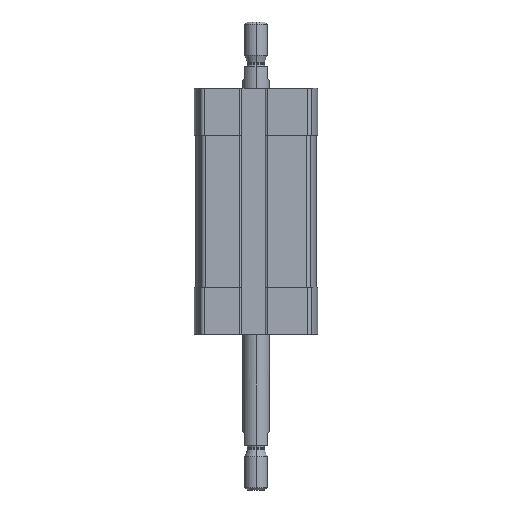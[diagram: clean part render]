
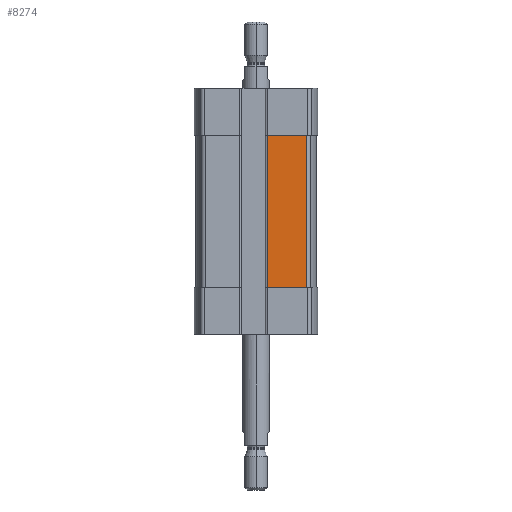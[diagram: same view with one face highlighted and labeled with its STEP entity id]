
A CAD part, left-side view. The second image highlights one B-rep face of the part: STEP entity #8274.
In plain terms, the highlighted planar face has unit normal (-1, 0, 0).
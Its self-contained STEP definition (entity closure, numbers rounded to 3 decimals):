
#23 = VECTOR ( 'NONE', #276, 1000. ) ;
#47 = VECTOR ( 'NONE', #2132, 1000. ) ;
#276 = DIRECTION ( 'NONE',  ( 0., 0., 1. ) ) ;
#488 = FACE_OUTER_BOUND ( 'NONE', #7339, .T. ) ;
#576 = LINE ( 'NONE', #7924, #4904 ) ;
#793 = CARTESIAN_POINT ( 'NONE',  ( -13.5, -11.329, -10.5 ) ) ;
#1013 = VECTOR ( 'NONE', #8107, 1000. ) ;
#1443 = PLANE ( 'NONE',  #10011 ) ;
#1508 = DIRECTION ( 'NONE',  ( -1., 0., 0. ) ) ;
#2132 = DIRECTION ( 'NONE',  ( 0., -1., 0. ) ) ;
#2255 = CARTESIAN_POINT ( 'NONE',  ( -13.5, -11.329, -44.5 ) ) ;
#2288 = CARTESIAN_POINT ( 'NONE',  ( -13.5, -2.5, -44.5 ) ) ;
#2497 = EDGE_CURVE ( 'NONE', #3283, #10007, #10295, .T. ) ;
#2827 = CARTESIAN_POINT ( 'NONE',  ( -13.5, -2.5, -44.5 ) ) ;
#2962 = ORIENTED_EDGE ( 'NONE', *, *, #5543, .T. ) ;
#3283 = VERTEX_POINT ( 'NONE', #2827 ) ;
#3940 = EDGE_CURVE ( 'NONE', #5748, #5863, #576, .T. ) ;
#4110 = EDGE_CURVE ( 'NONE', #10007, #5863, #11191, .T. ) ;
#4296 = ORIENTED_EDGE ( 'NONE', *, *, #4110, .F. ) ;
#4904 = VECTOR ( 'NONE', #7807, 1000. ) ;
#5251 = CARTESIAN_POINT ( 'NONE',  ( -13.5, -2.5, -44.5 ) ) ;
#5543 = EDGE_CURVE ( 'NONE', #3283, #5748, #9944, .T. ) ;
#5748 = VERTEX_POINT ( 'NONE', #2255 ) ;
#5863 = VERTEX_POINT ( 'NONE', #793 ) ;
#7197 = ORIENTED_EDGE ( 'NONE', *, *, #3940, .T. ) ;
#7339 = EDGE_LOOP ( 'NONE', ( #4296, #10291, #2962, #7197 ) ) ;
#7807 = DIRECTION ( 'NONE',  ( 0., 0., 1. ) ) ;
#7924 = CARTESIAN_POINT ( 'NONE',  ( -13.5, -11.329, -44.5 ) ) ;
#8107 = DIRECTION ( 'NONE',  ( 0., -1., 0. ) ) ;
#8274 = ADVANCED_FACE ( 'NONE', ( #488 ), #1443, .T. ) ;
#8296 = CARTESIAN_POINT ( 'NONE',  ( -13.5, -2.5, -10.5 ) ) ;
#8455 = CARTESIAN_POINT ( 'NONE',  ( -13.5, -2.5, -44.5 ) ) ;
#9944 = LINE ( 'NONE', #5251, #1013 ) ;
#10007 = VERTEX_POINT ( 'NONE', #8296 ) ;
#10011 = AXIS2_PLACEMENT_3D ( 'NONE', #2288, #1508, #10849 ) ;
#10291 = ORIENTED_EDGE ( 'NONE', *, *, #2497, .F. ) ;
#10295 = LINE ( 'NONE', #8455, #23 ) ;
#10297 = CARTESIAN_POINT ( 'NONE',  ( -13.5, -2.5, -10.5 ) ) ;
#10849 = DIRECTION ( 'NONE',  ( 0., 0., 1. ) ) ;
#11191 = LINE ( 'NONE', #10297, #47 ) ;
